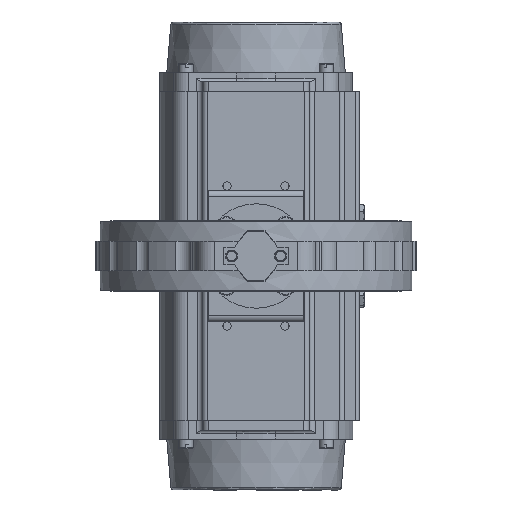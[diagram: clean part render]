
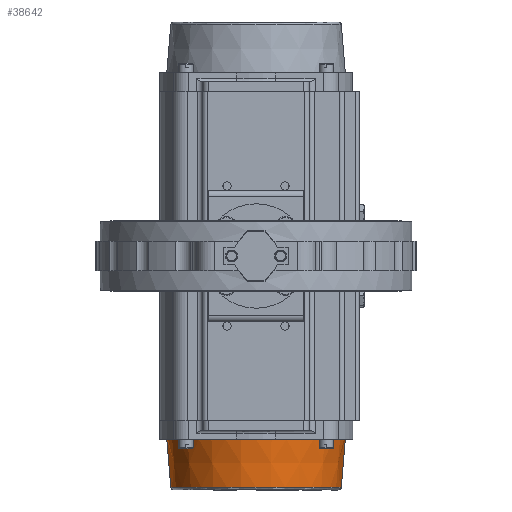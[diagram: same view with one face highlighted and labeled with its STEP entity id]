
A CAD part, front view. The second image highlights one B-rep face of the part: STEP entity #38642.
In plain terms, the highlighted conical face has half-angle 4.708 degrees and reference radius 149.5 mm.
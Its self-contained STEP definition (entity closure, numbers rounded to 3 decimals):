
#2926 = CARTESIAN_POINT ( 'NONE',  ( 0., 719., -307. ) ) ;
#5686 = CARTESIAN_POINT ( 'NONE',  ( 142.878, 719., -387.41 ) ) ;
#6084 = ORIENTED_EDGE ( 'NONE', *, *, #19413, .T. ) ;
#7084 = AXIS2_PLACEMENT_3D ( 'NONE', #2926, #35010, #24596 ) ;
#7892 = CARTESIAN_POINT ( 'NONE',  ( 149.5, 719., -307. ) ) ;
#9441 = CIRCLE ( 'NONE', #25462, 149.5 ) ;
#14856 = FACE_OUTER_BOUND ( 'NONE', #41074, .T. ) ;
#15953 = CARTESIAN_POINT ( 'NONE',  ( -149.5, 719., -307. ) ) ;
#17569 = VERTEX_POINT ( 'NONE', #28559 ) ;
#17642 = CONICAL_SURFACE ( 'NONE', #7084, 149.5, 0.082 ) ;
#18747 = LINE ( 'NONE', #42621, #44378 ) ;
#19405 = EDGE_CURVE ( 'NONE', #23303, #17569, #28161, .T. ) ;
#19413 = EDGE_CURVE ( 'NONE', #23303, #20106, #18747, .T. ) ;
#20106 = VERTEX_POINT ( 'NONE', #7892 ) ;
#23303 = VERTEX_POINT ( 'NONE', #5686 ) ;
#24596 = DIRECTION ( 'NONE',  ( 1., 0., 0. ) ) ;
#24666 = DIRECTION ( 'NONE',  ( -1., 0., 0. ) ) ;
#24826 = DIRECTION ( 'NONE',  ( 0., 0., -1. ) ) ;
#25091 = LINE ( 'NONE', #15953, #32305 ) ;
#25462 = AXIS2_PLACEMENT_3D ( 'NONE', #44868, #27079, #37827 ) ;
#26524 = DIRECTION ( 'NONE',  ( -0.082, 0., 0.997 ) ) ;
#27054 = AXIS2_PLACEMENT_3D ( 'NONE', #28066, #24826, #24666 ) ;
#27079 = DIRECTION ( 'NONE',  ( 0., 0., -1. ) ) ;
#28066 = CARTESIAN_POINT ( 'NONE',  ( 0., 719., -387.41 ) ) ;
#28161 = CIRCLE ( 'NONE', #27054, 142.878 ) ;
#28370 = DIRECTION ( 'NONE',  ( 0.082, 0., 0.997 ) ) ;
#28559 = CARTESIAN_POINT ( 'NONE',  ( -142.878, 719., -387.41 ) ) ;
#30542 = VERTEX_POINT ( 'NONE', #44089 ) ;
#30678 = EDGE_CURVE ( 'NONE', #20106, #30542, #9441, .T. ) ;
#32305 = VECTOR ( 'NONE', #26524, 1000. ) ;
#34261 = ORIENTED_EDGE ( 'NONE', *, *, #37309, .F. ) ;
#35010 = DIRECTION ( 'NONE',  ( 0., 0., 1. ) ) ;
#37309 = EDGE_CURVE ( 'NONE', #17569, #30542, #25091, .T. ) ;
#37827 = DIRECTION ( 'NONE',  ( 1., 0., 0. ) ) ;
#37981 = ORIENTED_EDGE ( 'NONE', *, *, #19405, .F. ) ;
#38642 = ADVANCED_FACE ( 'NONE', ( #14856 ), #17642, .T. ) ;
#41074 = EDGE_LOOP ( 'NONE', ( #34261, #37981, #6084, #45397 ) ) ;
#42621 = CARTESIAN_POINT ( 'NONE',  ( 149.5, 719., -307. ) ) ;
#44089 = CARTESIAN_POINT ( 'NONE',  ( -149.5, 719., -307. ) ) ;
#44378 = VECTOR ( 'NONE', #28370, 1000. ) ;
#44868 = CARTESIAN_POINT ( 'NONE',  ( 0., 719., -307. ) ) ;
#45397 = ORIENTED_EDGE ( 'NONE', *, *, #30678, .T. ) ;
